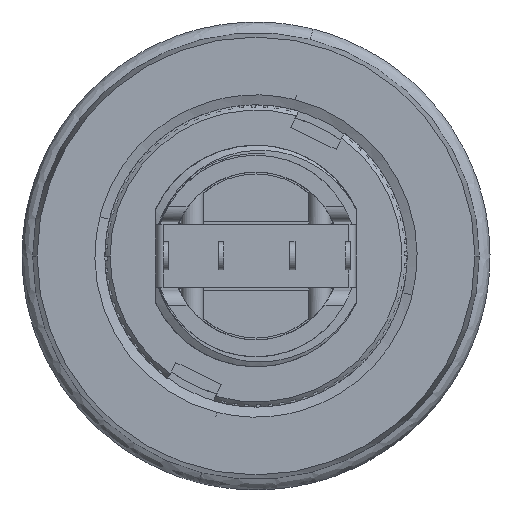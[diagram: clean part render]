
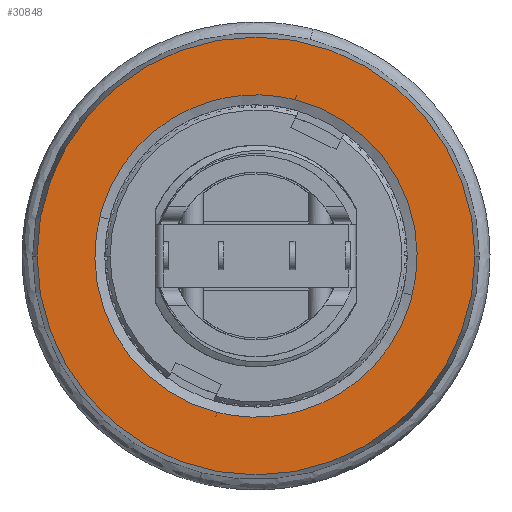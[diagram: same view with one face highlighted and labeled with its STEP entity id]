
A CAD part, front view. The second image highlights one B-rep face of the part: STEP entity #30848.
In plain terms, the highlighted planar face has unit normal (0, 1, 0).
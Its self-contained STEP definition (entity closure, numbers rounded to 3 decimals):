
#1333 = AXIS2_PLACEMENT_3D ( 'NONE', #23620, #8984, #26068 ) ;
#1498 = CARTESIAN_POINT ( 'NONE',  ( -27.157, 12.65, 23.328 ) ) ;
#2237 = CIRCLE ( 'NONE', #1333, 21.75 ) ;
#2422 = ORIENTED_EDGE ( 'NONE', *, *, #5878, .F. ) ;
#2611 =( BOUNDED_CURVE ( )  B_SPLINE_CURVE ( 3, ( #14274, #24083, #19275, #4672 ),
 .UNSPECIFIED., .F., .F. ) 
 B_SPLINE_CURVE_WITH_KNOTS ( ( 4, 4 ),
 ( 0., 0.05 ),
 .UNSPECIFIED. ) 
 CURVE ( )  GEOMETRIC_REPRESENTATION_ITEM ( )  RATIONAL_B_SPLINE_CURVE ( ( 0.931, 0.31, 0.31, 0.931 ) ) 
 REPRESENTATION_ITEM ( '' )  );
#3327 = FACE_BOUND ( 'NONE', #14197, .T. ) ;
#3635 = ORIENTED_EDGE ( 'NONE', *, *, #7463, .F. ) ;
#4672 = CARTESIAN_POINT ( 'NONE',  ( -3.9, 12.65, -15.528 ) ) ;
#5878 = EDGE_CURVE ( 'NONE', #14504, #6925, #16375, .T. ) ;
#6012 = DIRECTION ( 'NONE',  ( 0., -1., 0. ) ) ;
#6925 = VERTEX_POINT ( 'NONE', #21983 ) ;
#7463 = EDGE_CURVE ( 'NONE', #10189, #10508, #2611, .T. ) ;
#8722 = CARTESIAN_POINT ( 'NONE',  ( -3.9, 12.65, -15.528 ) ) ;
#8984 = DIRECTION ( 'NONE',  ( 0., -1., 0. ) ) ;
#9017 = FACE_OUTER_BOUND ( 'NONE', #27601, .T. ) ;
#9982 = CARTESIAN_POINT ( 'NONE',  ( 21.75, 12.65, 0. ) ) ;
#10189 = VERTEX_POINT ( 'NONE', #19140 ) ;
#10508 = VERTEX_POINT ( 'NONE', #18516 ) ;
#11475 = DIRECTION ( 'NONE',  ( -0.244, 0., -0.97 ) ) ;
#14197 = EDGE_LOOP ( 'NONE', ( #27542, #3635 ) ) ;
#14274 = CARTESIAN_POINT ( 'NONE',  ( 3.9, 12.65, 15.528 ) ) ;
#14382 = AXIS2_PLACEMENT_3D ( 'NONE', #23622, #26071, #11475 ) ;
#14504 = VERTEX_POINT ( 'NONE', #9982 ) ;
#14756 =( BOUNDED_CURVE ( )  B_SPLINE_CURVE ( 3, ( #8722, #23361, #1498, #18570 ),
 .UNSPECIFIED., .F., .F. ) 
 B_SPLINE_CURVE_WITH_KNOTS ( ( 4, 4 ),
 ( 0., 0.05 ),
 .UNSPECIFIED. ) 
 CURVE ( )  GEOMETRIC_REPRESENTATION_ITEM ( )  RATIONAL_B_SPLINE_CURVE ( ( 0.931, 0.31, 0.31, 0.931 ) ) 
 REPRESENTATION_ITEM ( '' )  );
#16194 = EDGE_CURVE ( 'NONE', #10508, #10189, #14756, .T. ) ;
#16375 = CIRCLE ( 'NONE', #21647, 21.75 ) ;
#18516 = CARTESIAN_POINT ( 'NONE',  ( -3.9, 12.65, -15.528 ) ) ;
#18570 = CARTESIAN_POINT ( 'NONE',  ( 3.9, 12.65, 15.528 ) ) ;
#19140 = CARTESIAN_POINT ( 'NONE',  ( 3.9, 12.65, 15.528 ) ) ;
#19275 = CARTESIAN_POINT ( 'NONE',  ( 27.157, 12.65, -23.328 ) ) ;
#19281 = EDGE_CURVE ( 'NONE', #6925, #14504, #2237, .T. ) ;
#20640 = CARTESIAN_POINT ( 'NONE',  ( 0., 12.65, 0. ) ) ;
#21647 = AXIS2_PLACEMENT_3D ( 'NONE', #20640, #6012, #23075 ) ;
#21983 = CARTESIAN_POINT ( 'NONE',  ( -21.75, 12.65, 0. ) ) ;
#23075 = DIRECTION ( 'NONE',  ( -1., 0., 0. ) ) ;
#23361 = CARTESIAN_POINT ( 'NONE',  ( -34.956, 12.65, -7.729 ) ) ;
#23620 = CARTESIAN_POINT ( 'NONE',  ( 0., 12.65, 0. ) ) ;
#23622 = CARTESIAN_POINT ( 'NONE',  ( -15.987, 12.65, 26.709 ) ) ;
#23838 = ORIENTED_EDGE ( 'NONE', *, *, #19281, .F. ) ;
#24083 = CARTESIAN_POINT ( 'NONE',  ( 34.956, 12.65, 7.729 ) ) ;
#26068 = DIRECTION ( 'NONE',  ( -1., 0., 0. ) ) ;
#26071 = DIRECTION ( 'NONE',  ( 0., -1., 0. ) ) ;
#27542 = ORIENTED_EDGE ( 'NONE', *, *, #16194, .F. ) ;
#27601 = EDGE_LOOP ( 'NONE', ( #23838, #2422 ) ) ;
#28331 = PLANE ( 'NONE',  #14382 ) ;
#30848 = ADVANCED_FACE ( 'NONE', ( #3327, #9017 ), #28331, .F. ) ;
